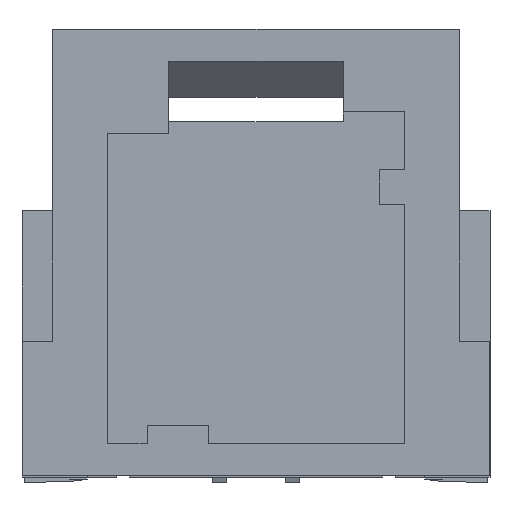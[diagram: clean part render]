
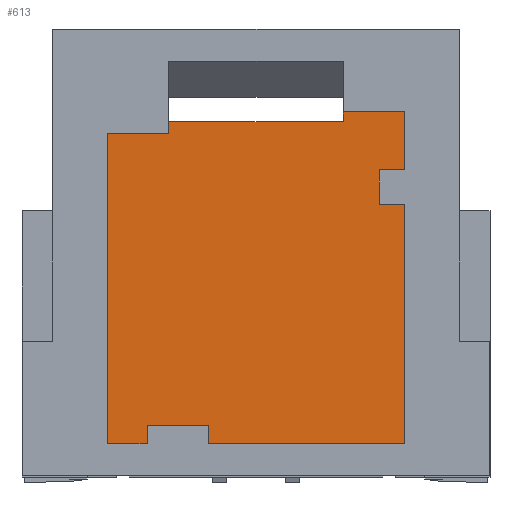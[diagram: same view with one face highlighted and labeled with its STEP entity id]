
A CAD part, left-side view. The second image highlights one B-rep face of the part: STEP entity #613.
In plain terms, the highlighted planar face has unit normal (-1, 0, 0).
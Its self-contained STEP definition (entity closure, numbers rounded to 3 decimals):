
#490=AXIS2_PLACEMENT_3D('Plane Axis2P3D',#487,#488,#489) ;
#290=CARTESIAN_POINT('Vertex',(0.,-1.4,5.55)) ;
#306=CARTESIAN_POINT('Vertex',(0.,3.4,5.55)) ;
#309=CARTESIAN_POINT('Line Origine',(0.,1.,5.55)) ;
#487=CARTESIAN_POINT('Axis2P3D Location',(0.,1.,0.)) ;
#492=CARTESIAN_POINT('Line Origine',(0.,-3.1,-0.025)) ;
#496=CARTESIAN_POINT('Vertex',(0.,-3.1,-3.325)) ;
#498=CARTESIAN_POINT('Vertex',(0.,-3.1,3.275)) ;
#501=CARTESIAN_POINT('Line Origine',(0.,-2.75,3.275)) ;
#505=CARTESIAN_POINT('Vertex',(0.,-2.4,3.275)) ;
#508=CARTESIAN_POINT('Line Origine',(0.,-2.4,3.75)) ;
#512=CARTESIAN_POINT('Vertex',(0.,-2.4,4.225)) ;
#515=CARTESIAN_POINT('Line Origine',(0.,-2.75,4.225)) ;
#519=CARTESIAN_POINT('Vertex',(0.,-3.1,4.225)) ;
#522=CARTESIAN_POINT('Line Origine',(0.,-3.1,5.025)) ;
#526=CARTESIAN_POINT('Vertex',(0.,-3.1,5.825)) ;
#529=CARTESIAN_POINT('Line Origine',(0.,-2.25,5.825)) ;
#533=CARTESIAN_POINT('Vertex',(0.,-1.4,5.825)) ;
#536=CARTESIAN_POINT('Line Origine',(0.,-1.4,5.688)) ;
#541=CARTESIAN_POINT('Line Origine',(0.,3.4,5.388)) ;
#545=CARTESIAN_POINT('Vertex',(0.,3.4,5.225)) ;
#548=CARTESIAN_POINT('Line Origine',(0.,4.25,5.225)) ;
#552=CARTESIAN_POINT('Vertex',(0.,5.1,5.225)) ;
#555=CARTESIAN_POINT('Line Origine',(0.,5.1,0.95)) ;
#559=CARTESIAN_POINT('Vertex',(0.,5.1,-3.325)) ;
#562=CARTESIAN_POINT('Line Origine',(0.,4.55,-3.325)) ;
#566=CARTESIAN_POINT('Vertex',(0.,4.,-3.325)) ;
#569=CARTESIAN_POINT('Line Origine',(0.,4.,-3.075)) ;
#573=CARTESIAN_POINT('Vertex',(0.,4.,-2.825)) ;
#576=CARTESIAN_POINT('Line Origine',(0.,3.15,-2.825)) ;
#580=CARTESIAN_POINT('Vertex',(0.,2.3,-2.825)) ;
#583=CARTESIAN_POINT('Line Origine',(0.,2.3,-3.075)) ;
#587=CARTESIAN_POINT('Vertex',(0.,2.3,-3.325)) ;
#590=CARTESIAN_POINT('Line Origine',(0.,-0.4,-3.325)) ;
#310=DIRECTION('Vector Direction',(0.,1.,0.)) ;
#488=DIRECTION('Axis2P3D Direction',(-1.,0.,0.)) ;
#489=DIRECTION('Axis2P3D XDirection',(0.,-1.,0.)) ;
#493=DIRECTION('Vector Direction',(0.,0.,1.)) ;
#502=DIRECTION('Vector Direction',(0.,1.,0.)) ;
#509=DIRECTION('Vector Direction',(0.,0.,-1.)) ;
#516=DIRECTION('Vector Direction',(0.,-1.,0.)) ;
#523=DIRECTION('Vector Direction',(0.,0.,1.)) ;
#530=DIRECTION('Vector Direction',(0.,1.,0.)) ;
#537=DIRECTION('Vector Direction',(0.,0.,1.)) ;
#542=DIRECTION('Vector Direction',(0.,0.,-1.)) ;
#549=DIRECTION('Vector Direction',(0.,1.,0.)) ;
#556=DIRECTION('Vector Direction',(0.,0.,-1.)) ;
#563=DIRECTION('Vector Direction',(0.,1.,0.)) ;
#570=DIRECTION('Vector Direction',(0.,0.,-1.)) ;
#577=DIRECTION('Vector Direction',(0.,-1.,0.)) ;
#584=DIRECTION('Vector Direction',(0.,0.,1.)) ;
#591=DIRECTION('Vector Direction',(0.,1.,0.)) ;
#311=VECTOR('Line Direction',#310,1.) ;
#494=VECTOR('Line Direction',#493,1.) ;
#503=VECTOR('Line Direction',#502,1.) ;
#510=VECTOR('Line Direction',#509,1.) ;
#517=VECTOR('Line Direction',#516,1.) ;
#524=VECTOR('Line Direction',#523,1.) ;
#531=VECTOR('Line Direction',#530,1.) ;
#538=VECTOR('Line Direction',#537,1.) ;
#543=VECTOR('Line Direction',#542,1.) ;
#550=VECTOR('Line Direction',#549,1.) ;
#557=VECTOR('Line Direction',#556,1.) ;
#564=VECTOR('Line Direction',#563,1.) ;
#571=VECTOR('Line Direction',#570,1.) ;
#578=VECTOR('Line Direction',#577,1.) ;
#585=VECTOR('Line Direction',#584,1.) ;
#592=VECTOR('Line Direction',#591,1.) ;
#596=ORIENTED_EDGE('',*,*,#500,.T.) ;
#597=ORIENTED_EDGE('',*,*,#507,.T.) ;
#598=ORIENTED_EDGE('',*,*,#514,.F.) ;
#599=ORIENTED_EDGE('',*,*,#521,.T.) ;
#600=ORIENTED_EDGE('',*,*,#528,.T.) ;
#601=ORIENTED_EDGE('',*,*,#535,.T.) ;
#602=ORIENTED_EDGE('',*,*,#540,.F.) ;
#603=ORIENTED_EDGE('',*,*,#313,.T.) ;
#604=ORIENTED_EDGE('',*,*,#547,.T.) ;
#605=ORIENTED_EDGE('',*,*,#554,.T.) ;
#606=ORIENTED_EDGE('',*,*,#561,.T.) ;
#607=ORIENTED_EDGE('',*,*,#568,.F.) ;
#608=ORIENTED_EDGE('',*,*,#575,.F.) ;
#609=ORIENTED_EDGE('',*,*,#582,.T.) ;
#610=ORIENTED_EDGE('',*,*,#589,.F.) ;
#611=ORIENTED_EDGE('',*,*,#594,.F.) ;
#613=ADVANCED_FACE('\X2\FF8AFF9FFF70FF82\X0\ \X2\FF8EFF9EFF83FF9EFF68FF70\X0\',(#612),#491,.T.) ;
#313=EDGE_CURVE('',#291,#307,#312,.T.) ;
#500=EDGE_CURVE('',#497,#499,#495,.T.) ;
#507=EDGE_CURVE('',#499,#506,#504,.T.) ;
#514=EDGE_CURVE('',#513,#506,#511,.T.) ;
#521=EDGE_CURVE('',#513,#520,#518,.T.) ;
#528=EDGE_CURVE('',#520,#527,#525,.T.) ;
#535=EDGE_CURVE('',#527,#534,#532,.T.) ;
#540=EDGE_CURVE('',#291,#534,#539,.T.) ;
#547=EDGE_CURVE('',#307,#546,#544,.T.) ;
#554=EDGE_CURVE('',#546,#553,#551,.T.) ;
#561=EDGE_CURVE('',#553,#560,#558,.T.) ;
#568=EDGE_CURVE('',#567,#560,#565,.T.) ;
#575=EDGE_CURVE('',#574,#567,#572,.T.) ;
#582=EDGE_CURVE('',#574,#581,#579,.T.) ;
#589=EDGE_CURVE('',#588,#581,#586,.T.) ;
#594=EDGE_CURVE('',#497,#588,#593,.T.) ;
#595=EDGE_LOOP('',(#596,#597,#598,#599,#600,#601,#602,#603,#604,#605,#606,#607,#608,#609,#610,#611)) ;
#612=FACE_OUTER_BOUND('',#595,.T.) ;
#312=LINE('Line',#309,#311) ;
#495=LINE('Line',#492,#494) ;
#504=LINE('Line',#501,#503) ;
#511=LINE('Line',#508,#510) ;
#518=LINE('Line',#515,#517) ;
#525=LINE('Line',#522,#524) ;
#532=LINE('Line',#529,#531) ;
#539=LINE('Line',#536,#538) ;
#544=LINE('Line',#541,#543) ;
#551=LINE('Line',#548,#550) ;
#558=LINE('Line',#555,#557) ;
#565=LINE('Line',#562,#564) ;
#572=LINE('Line',#569,#571) ;
#579=LINE('Line',#576,#578) ;
#586=LINE('Line',#583,#585) ;
#593=LINE('Line',#590,#592) ;
#491=PLANE('',#490) ;
#291=VERTEX_POINT('',#290) ;
#307=VERTEX_POINT('',#306) ;
#497=VERTEX_POINT('',#496) ;
#499=VERTEX_POINT('',#498) ;
#506=VERTEX_POINT('',#505) ;
#513=VERTEX_POINT('',#512) ;
#520=VERTEX_POINT('',#519) ;
#527=VERTEX_POINT('',#526) ;
#534=VERTEX_POINT('',#533) ;
#546=VERTEX_POINT('',#545) ;
#553=VERTEX_POINT('',#552) ;
#560=VERTEX_POINT('',#559) ;
#567=VERTEX_POINT('',#566) ;
#574=VERTEX_POINT('',#573) ;
#581=VERTEX_POINT('',#580) ;
#588=VERTEX_POINT('',#587) ;
